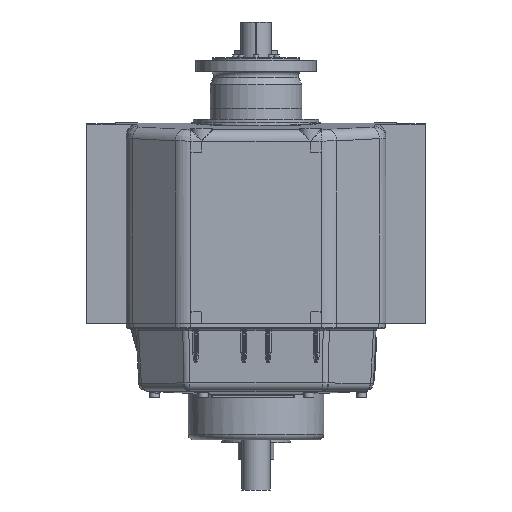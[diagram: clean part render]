
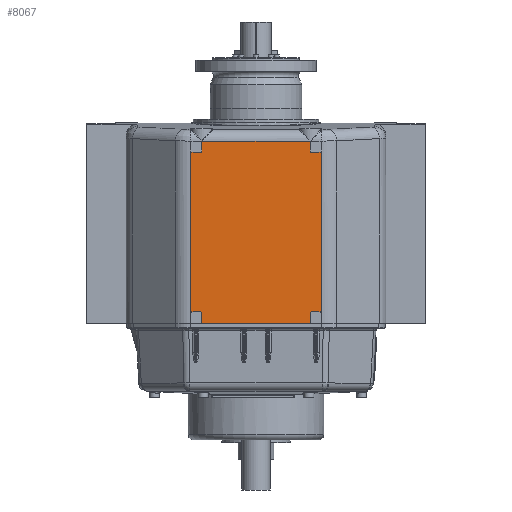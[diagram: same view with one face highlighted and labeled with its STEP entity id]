
A CAD part, front view. The second image highlights one B-rep face of the part: STEP entity #8067.
In plain terms, the highlighted planar face has unit normal (0, -1, 0).
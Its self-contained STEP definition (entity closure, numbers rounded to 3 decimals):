
#2491=DIRECTION('',(1.,0.,0.));
#2492=VECTOR('',#2491,387.868);
#2493=CARTESIAN_POINT('',(-193.934,-483.,-921.));
#2494=LINE('',#2493,#2492);
#2665=DIRECTION('',(0.,0.,-1.));
#2666=VECTOR('',#2665,567.728);
#2667=CARTESIAN_POINT('',(228.934,-483.,-318.272));
#2668=LINE('',#2667,#2666);
#2698=CARTESIAN_POINT('',(193.934,-483.,-916.));
#2699=DIRECTION('',(0.,-1.,0.));
#2700=DIRECTION('',(-1.,0.,0.));
#2701=AXIS2_PLACEMENT_3D('',#2698,#2699,#2700);
#2703=CARTESIAN_POINT('',(-193.934,-483.,-916.));
#2704=DIRECTION('',(0.,-1.,0.));
#2705=DIRECTION('',(0.,0.,-1.));
#2706=AXIS2_PLACEMENT_3D('',#2703,#2704,#2705);
#2708=DIRECTION('',(0.,0.,1.));
#2709=VECTOR('',#2708,30.);
#2710=CARTESIAN_POINT('',(-188.934,-483.,-916.));
#2711=LINE('',#2710,#2709);
#2712=CARTESIAN_POINT('',(-193.934,-483.,-886.));
#2713=DIRECTION('',(0.,-1.,0.));
#2714=DIRECTION('',(1.,0.,0.));
#2715=AXIS2_PLACEMENT_3D('',#2712,#2713,#2714);
#2717=DIRECTION('',(-1.,0.,0.));
#2718=VECTOR('',#2717,30.);
#2719=CARTESIAN_POINT('',(-193.934,-483.,-881.));
#2720=LINE('',#2719,#2718);
#2721=CARTESIAN_POINT('',(-223.934,-483.,-886.));
#2722=DIRECTION('',(0.,-1.,0.));
#2723=DIRECTION('',(0.,0.,1.));
#2724=AXIS2_PLACEMENT_3D('',#2721,#2722,#2723);
#2726=CARTESIAN_POINT('',(-223.934,-483.,-318.272));
#2727=DIRECTION('',(0.,-1.,0.));
#2728=DIRECTION('',(-1.,0.,0.));
#2729=AXIS2_PLACEMENT_3D('',#2726,#2727,#2728);
#2731=DIRECTION('',(1.,0.,0.));
#2732=VECTOR('',#2731,30.);
#2733=CARTESIAN_POINT('',(-223.934,-483.,-323.272));
#2734=LINE('',#2733,#2732);
#2735=CARTESIAN_POINT('',(-193.934,-483.,-318.272));
#2736=DIRECTION('',(0.,-1.,0.));
#2737=DIRECTION('',(0.,0.,-1.));
#2738=AXIS2_PLACEMENT_3D('',#2735,#2736,#2737);
#2740=DIRECTION('',(0.,0.,1.));
#2741=VECTOR('',#2740,30.);
#2742=CARTESIAN_POINT('',(-188.934,-483.,-318.272));
#2743=LINE('',#2742,#2741);
#2744=CARTESIAN_POINT('',(-193.934,-483.,-288.272));
#2745=DIRECTION('',(0.,-1.,0.));
#2746=DIRECTION('',(1.,0.,0.));
#2747=AXIS2_PLACEMENT_3D('',#2744,#2745,#2746);
#2749=CARTESIAN_POINT('',(193.934,-483.,-288.272));
#2750=DIRECTION('',(0.,-1.,0.));
#2751=DIRECTION('',(0.,0.,1.));
#2752=AXIS2_PLACEMENT_3D('',#2749,#2750,#2751);
#2754=DIRECTION('',(0.,0.,-1.));
#2755=VECTOR('',#2754,30.);
#2756=CARTESIAN_POINT('',(188.934,-483.,-288.272));
#2757=LINE('',#2756,#2755);
#2758=CARTESIAN_POINT('',(193.934,-483.,-318.272));
#2759=DIRECTION('',(0.,-1.,0.));
#2760=DIRECTION('',(-1.,0.,0.));
#2761=AXIS2_PLACEMENT_3D('',#2758,#2759,#2760);
#2763=DIRECTION('',(1.,0.,0.));
#2764=VECTOR('',#2763,30.);
#2765=CARTESIAN_POINT('',(193.934,-483.,-323.272));
#2766=LINE('',#2765,#2764);
#2767=CARTESIAN_POINT('',(223.934,-483.,-318.272));
#2768=DIRECTION('',(0.,-1.,0.));
#2769=DIRECTION('',(0.,0.,-1.));
#2770=AXIS2_PLACEMENT_3D('',#2767,#2768,#2769);
#2772=CARTESIAN_POINT('',(223.934,-483.,-886.));
#2773=DIRECTION('',(0.,-1.,0.));
#2774=DIRECTION('',(1.,0.,0.));
#2775=AXIS2_PLACEMENT_3D('',#2772,#2773,#2774);
#2777=DIRECTION('',(-1.,0.,0.));
#2778=VECTOR('',#2777,30.);
#2779=CARTESIAN_POINT('',(223.934,-483.,-881.));
#2780=LINE('',#2779,#2778);
#2781=CARTESIAN_POINT('',(193.934,-483.,-886.));
#2782=DIRECTION('',(0.,-1.,0.));
#2783=DIRECTION('',(0.,0.,1.));
#2784=AXIS2_PLACEMENT_3D('',#2781,#2782,#2783);
#2786=DIRECTION('',(0.,0.,-1.));
#2787=VECTOR('',#2786,30.);
#2788=CARTESIAN_POINT('',(188.934,-483.,-886.));
#2789=LINE('',#2788,#2787);
#3023=DIRECTION('',(0.,0.,-1.));
#3024=VECTOR('',#3023,567.728);
#3025=CARTESIAN_POINT('',(-228.934,-483.,-318.272));
#3026=LINE('',#3025,#3024);
#5899=DIRECTION('',(-1.,0.,0.));
#5900=VECTOR('',#5899,379.687);
#5901=CARTESIAN_POINT('',(189.844,-483.,-283.272));
#5902=LINE('',#5901,#5900);
#5923=DIRECTION('',(-1.,0.,0.));
#5924=VECTOR('',#5923,4.09);
#5925=CARTESIAN_POINT('',(-189.844,-483.,-283.272));
#5926=LINE('',#5925,#5924);
#5931=DIRECTION('',(-1.,0.,0.));
#5932=VECTOR('',#5931,4.09);
#5933=CARTESIAN_POINT('',(193.934,-483.,-283.272));
#5934=LINE('',#5933,#5932);
#5948=CARTESIAN_POINT('',(189.844,-483.,-283.272));
#6486=CARTESIAN_POINT('',(-189.844,-483.,-283.272));
#7264=VERTEX_POINT('',#6486);
#7273=VERTEX_POINT('',#5948);
#7421=CARTESIAN_POINT('',(188.934,-483.,-916.));
#7422=CARTESIAN_POINT('',(193.934,-483.,-921.));
#7423=VERTEX_POINT('',#7421);
#7424=VERTEX_POINT('',#7422);
#7429=CARTESIAN_POINT('',(228.934,-483.,-886.));
#7430=VERTEX_POINT('',#7429);
#7431=CARTESIAN_POINT('',(223.934,-483.,-881.));
#7432=VERTEX_POINT('',#7431);
#7433=CARTESIAN_POINT('',(193.934,-483.,-881.));
#7434=VERTEX_POINT('',#7433);
#7435=CARTESIAN_POINT('',(188.934,-483.,-886.));
#7436=VERTEX_POINT('',#7435);
#7437=CARTESIAN_POINT('',(-188.934,-483.,-916.));
#7438=CARTESIAN_POINT('',(-188.934,-483.,-886.));
#7439=VERTEX_POINT('',#7437);
#7440=VERTEX_POINT('',#7438);
#7441=CARTESIAN_POINT('',(-193.934,-483.,-881.));
#7442=VERTEX_POINT('',#7441);
#7443=CARTESIAN_POINT('',(-223.934,-483.,-881.));
#7444=VERTEX_POINT('',#7443);
#7445=CARTESIAN_POINT('',(-228.934,-483.,-886.));
#7446=VERTEX_POINT('',#7445);
#7451=CARTESIAN_POINT('',(-193.934,-483.,-921.));
#7452=VERTEX_POINT('',#7451);
#7453=CARTESIAN_POINT('',(-188.934,-483.,-288.272));
#7454=CARTESIAN_POINT('',(-193.934,-483.,-283.272));
#7455=VERTEX_POINT('',#7453);
#7456=VERTEX_POINT('',#7454);
#7461=CARTESIAN_POINT('',(-228.934,-483.,-318.272));
#7462=VERTEX_POINT('',#7461);
#7463=CARTESIAN_POINT('',(-223.934,-483.,-323.272));
#7464=VERTEX_POINT('',#7463);
#7465=CARTESIAN_POINT('',(-193.934,-483.,-323.272));
#7466=VERTEX_POINT('',#7465);
#7467=CARTESIAN_POINT('',(-188.934,-483.,-318.272));
#7468=VERTEX_POINT('',#7467);
#7469=CARTESIAN_POINT('',(223.934,-483.,-323.272));
#7470=CARTESIAN_POINT('',(228.934,-483.,-318.272));
#7471=VERTEX_POINT('',#7469);
#7472=VERTEX_POINT('',#7470);
#7477=CARTESIAN_POINT('',(193.934,-483.,-283.272));
#7478=VERTEX_POINT('',#7477);
#7479=CARTESIAN_POINT('',(188.934,-483.,-288.272));
#7480=VERTEX_POINT('',#7479);
#7481=CARTESIAN_POINT('',(188.934,-483.,-318.272));
#7482=VERTEX_POINT('',#7481);
#7483=CARTESIAN_POINT('',(193.934,-483.,-323.272));
#7484=VERTEX_POINT('',#7483);
#8010=CARTESIAN_POINT('',(-260.,-483.,-921.));
#8011=DIRECTION('',(0.,-1.,0.));
#8012=DIRECTION('',(1.,0.,0.));
#8013=AXIS2_PLACEMENT_3D('',#8010,#8011,#8012);
#8014=PLANE('',#8013);
#8016=ORIENTED_EDGE('',*,*,#8015,.T.);
#8017=ORIENTED_EDGE('',*,*,#7687,.F.);
#8019=ORIENTED_EDGE('',*,*,#8018,.T.);
#8021=ORIENTED_EDGE('',*,*,#8020,.T.);
#8023=ORIENTED_EDGE('',*,*,#8022,.T.);
#8025=ORIENTED_EDGE('',*,*,#8024,.T.);
#8027=ORIENTED_EDGE('',*,*,#8026,.T.);
#8029=ORIENTED_EDGE('',*,*,#8028,.F.);
#8031=ORIENTED_EDGE('',*,*,#8030,.T.);
#8033=ORIENTED_EDGE('',*,*,#8032,.T.);
#8035=ORIENTED_EDGE('',*,*,#8034,.T.);
#8037=ORIENTED_EDGE('',*,*,#8036,.T.);
#8039=ORIENTED_EDGE('',*,*,#8038,.T.);
#8041=ORIENTED_EDGE('',*,*,#8040,.F.);
#8043=ORIENTED_EDGE('',*,*,#8042,.F.);
#8045=ORIENTED_EDGE('',*,*,#8044,.F.);
#8047=ORIENTED_EDGE('',*,*,#8046,.T.);
#8049=ORIENTED_EDGE('',*,*,#8048,.T.);
#8051=ORIENTED_EDGE('',*,*,#8050,.T.);
#8053=ORIENTED_EDGE('',*,*,#8052,.T.);
#8055=ORIENTED_EDGE('',*,*,#8054,.T.);
#8056=ORIENTED_EDGE('',*,*,#7966,.T.);
#8058=ORIENTED_EDGE('',*,*,#8057,.T.);
#8060=ORIENTED_EDGE('',*,*,#8059,.T.);
#8062=ORIENTED_EDGE('',*,*,#8061,.T.);
#8064=ORIENTED_EDGE('',*,*,#8063,.T.);
#8065=EDGE_LOOP('',(#8016,#8017,#8019,#8021,#8023,#8025,#8027,#8029,#8031,#8033,
#8035,#8037,#8039,#8041,#8043,#8045,#8047,#8049,#8051,#8053,#8055,#8056,#8058,
#8060,#8062,#8064));
#8066=FACE_OUTER_BOUND('',#8065,.F.);
#8067=ADVANCED_FACE('',(#8066),#8014,.T.);
#2702=CIRCLE('',#2701,5.);
#2707=CIRCLE('',#2706,5.);
#2716=CIRCLE('',#2715,5.);
#2725=CIRCLE('',#2724,5.);
#2730=CIRCLE('',#2729,5.);
#2739=CIRCLE('',#2738,5.);
#2748=CIRCLE('',#2747,5.);
#2753=CIRCLE('',#2752,5.);
#2762=CIRCLE('',#2761,5.);
#2771=CIRCLE('',#2770,5.);
#2776=CIRCLE('',#2775,5.);
#2785=CIRCLE('',#2784,5.);
#7687=EDGE_CURVE('',#7452,#7424,#2494,.T.);
#7966=EDGE_CURVE('',#7472,#7430,#2668,.T.);
#8015=EDGE_CURVE('',#7423,#7424,#2702,.T.);
#8018=EDGE_CURVE('',#7452,#7439,#2707,.T.);
#8020=EDGE_CURVE('',#7439,#7440,#2711,.T.);
#8022=EDGE_CURVE('',#7440,#7442,#2716,.T.);
#8024=EDGE_CURVE('',#7442,#7444,#2720,.T.);
#8026=EDGE_CURVE('',#7444,#7446,#2725,.T.);
#8028=EDGE_CURVE('',#7462,#7446,#3026,.T.);
#8030=EDGE_CURVE('',#7462,#7464,#2730,.T.);
#8032=EDGE_CURVE('',#7464,#7466,#2734,.T.);
#8034=EDGE_CURVE('',#7466,#7468,#2739,.T.);
#8036=EDGE_CURVE('',#7468,#7455,#2743,.T.);
#8038=EDGE_CURVE('',#7455,#7456,#2748,.T.);
#8040=EDGE_CURVE('',#7264,#7456,#5926,.T.);
#8042=EDGE_CURVE('',#7273,#7264,#5902,.T.);
#8044=EDGE_CURVE('',#7478,#7273,#5934,.T.);
#8046=EDGE_CURVE('',#7478,#7480,#2753,.T.);
#8048=EDGE_CURVE('',#7480,#7482,#2757,.T.);
#8050=EDGE_CURVE('',#7482,#7484,#2762,.T.);
#8052=EDGE_CURVE('',#7484,#7471,#2766,.T.);
#8054=EDGE_CURVE('',#7471,#7472,#2771,.T.);
#8057=EDGE_CURVE('',#7430,#7432,#2776,.T.);
#8059=EDGE_CURVE('',#7432,#7434,#2780,.T.);
#8061=EDGE_CURVE('',#7434,#7436,#2785,.T.);
#8063=EDGE_CURVE('',#7436,#7423,#2789,.T.);
